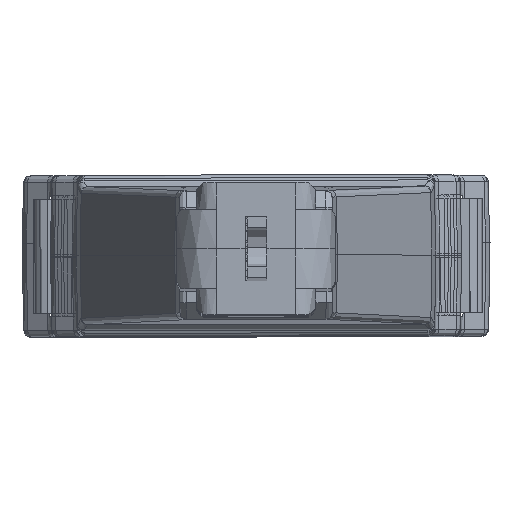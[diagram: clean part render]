
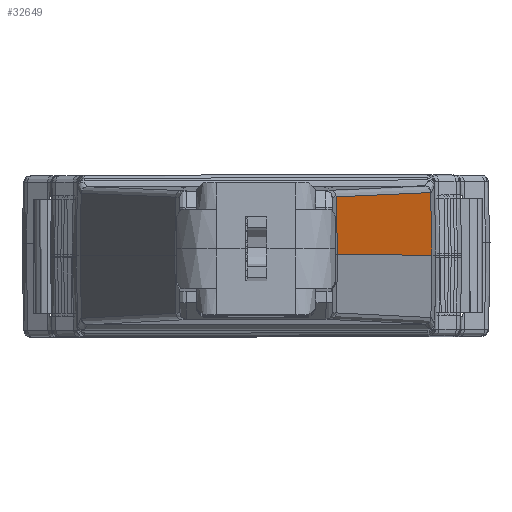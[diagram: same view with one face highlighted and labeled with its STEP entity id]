
A CAD part, top view. The second image highlights one B-rep face of the part: STEP entity #32649.
In plain terms, the highlighted planar face has unit normal (0.906, 0.019, 0.423).
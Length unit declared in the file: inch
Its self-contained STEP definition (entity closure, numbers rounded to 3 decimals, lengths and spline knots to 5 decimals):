
#303 = CARTESIAN_POINT ( 'NONE',  ( 0.24246, 0.00062, -10.57609 ) ) ;
#3333 = LINE ( 'NONE', #66935, #95355 ) ;
#7628 = VECTOR ( 'NONE', #38440, 39.37008 ) ;
#12998 = EDGE_LOOP ( 'NONE', ( #40972, #49848, #60184, #30059 ) ) ;
#14079 = CARTESIAN_POINT ( 'NONE',  ( 0.5191, 0.2374, -11.18018 ) ) ;
#14464 = EDGE_CURVE ( 'NONE', #91513, #21854, #48759, .T. ) ;
#19361 = CARTESIAN_POINT ( 'NONE',  ( 0.92513, 0.20701, -12.04947 ) ) ;
#21854 = VERTEX_POINT ( 'NONE', #64639 ) ;
#22317 = CARTESIAN_POINT ( 'NONE',  ( 0.23907, 0.17342, -10.57676 ) ) ;
#25868 = FACE_OUTER_BOUND ( 'NONE', #12998, .T. ) ;
#26392 = DIRECTION ( 'NONE',  ( 0.423, 0.001, -0.906 ) ) ;
#26515 = VERTEX_POINT ( 'NONE', #96644 ) ;
#30059 = ORIENTED_EDGE ( 'NONE', *, *, #63903, .T. ) ;
#32591 = DIRECTION ( 'NONE',  ( 0.02, -1., 0.004 ) ) ;
#32649 = ADVANCED_FACE ( 'Defeatured_1_137', ( #25868 ), #57696, .T. ) ;
#36409 = EDGE_CURVE ( 'NONE', #26515, #39074, #101550, .T. ) ;
#36652 = VECTOR ( 'NONE', #32591, 39.37008 ) ;
#38440 = DIRECTION ( 'NONE',  ( -0.422, -0.021, 0.906 ) ) ;
#39074 = VERTEX_POINT ( 'NONE', #48317 ) ;
#40972 = ORIENTED_EDGE ( 'NONE', *, *, #36409, .T. ) ;
#43815 = AXIS2_PLACEMENT_3D ( 'NONE', #98717, #81099, #26392 ) ;
#48317 = CARTESIAN_POINT ( 'NONE',  ( 0.52008, 0.18718, -11.17999 ) ) ;
#48759 = LINE ( 'NONE', #303, #36652 ) ;
#49848 = ORIENTED_EDGE ( 'NONE', *, *, #78732, .T. ) ;
#57696 = PLANE ( 'NONE',  #43815 ) ;
#60184 = ORIENTED_EDGE ( 'NONE', *, *, #14464, .T. ) ;
#63084 = DIRECTION ( 'NONE',  ( -0.02, 1., -0.004 ) ) ;
#63903 = EDGE_CURVE ( 'NONE', #21854, #26515, #3333, .T. ) ;
#64639 = CARTESIAN_POINT ( 'NONE',  ( 0.24246, 0.00052, -10.57609 ) ) ;
#66935 = CARTESIAN_POINT ( 'NONE',  ( 0.92851, 0.00198, -12.04733 ) ) ;
#77750 = VECTOR ( 'NONE', #63084, 39.37008 ) ;
#78732 = EDGE_CURVE ( 'NONE', #39074, #91513, #85327, .T. ) ;
#81099 = DIRECTION ( 'NONE',  ( 0.906, 0.019, 0.423 ) ) ;
#85327 = LINE ( 'NONE', #19361, #7628 ) ;
#91513 = VERTEX_POINT ( 'NONE', #22317 ) ;
#95355 = VECTOR ( 'NONE', #98618, 39.37008 ) ;
#96644 = CARTESIAN_POINT ( 'NONE',  ( 0.52373, 0.00112, -11.17927 ) ) ;
#98618 = DIRECTION ( 'NONE',  ( 0.423, 0.001, -0.906 ) ) ;
#98717 = CARTESIAN_POINT ( 'NONE',  ( 0.92421, 0.24197, -12.0491 ) ) ;
#101550 = LINE ( 'NONE', #14079, #77750 ) ;
